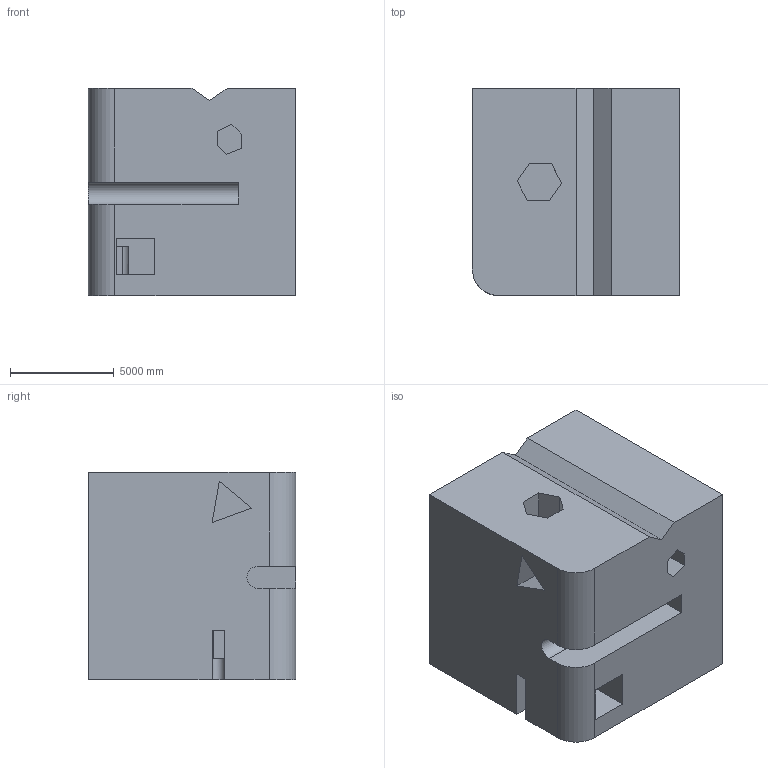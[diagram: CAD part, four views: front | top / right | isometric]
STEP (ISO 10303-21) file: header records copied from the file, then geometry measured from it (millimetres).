
FILE_DESCRIPTION (( 'STEP AP203' ), '1' );
FILE_NAME ('182.STEP', '2022-09-06T15:24:12', ( 'user' ), ( '' ), 'SwSTEP 2.0', 'SolidWorks 2021', '' );
FILE_SCHEMA (( 'CONFIG_CONTROL_DESIGN' ));
Length unit declared in the file: centimetre
Products named in the file (1): 182
Bounding box: 10000 x 10000 x 10000 mm (x, y, z)
Volume: 919530904661.1 mm3; surface area: 763636902.7 mm2
Topology: 1 solids, 1 shells, 45 faces, 120 edges, 80 vertices
Faces by surface type: plane 39, cylinder 6
Entity records: 1468 total; most frequent: CARTESIAN_POINT 246, ORIENTED_EDGE 240, DIRECTION 225, EDGE_CURVE 120, LINE 107, VECTOR 107, VERTEX_POINT 80, AXIS2_PLACEMENT_3D 59
